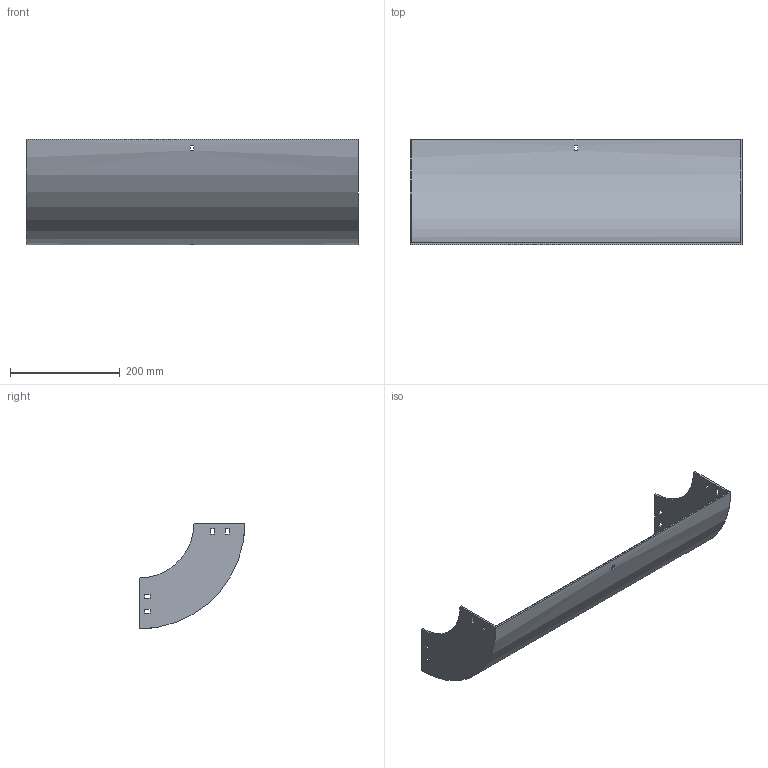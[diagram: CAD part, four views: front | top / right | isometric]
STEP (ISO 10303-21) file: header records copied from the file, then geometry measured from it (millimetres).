
FILE_DESCRIPTION (( 'STEP AP214' ), '1' );
FILE_NAME ('30B1I600.step', '2025-02-21T09:51:35', ( '' ), ( '' ), 'SwSTEP 2.0', 'SolidWorks 2023', '' );
FILE_SCHEMA (( 'AUTOMOTIVE_DESIGN' ));
Length unit declared in the file: millimetre
Products named in the file (1): 30B1I600
Bounding box: 604 x 192.5 x 192.5 mm (x, y, z)
Volume: 772454.1 mm3; surface area: 449165 mm2
Topology: 1 solids, 1 shells, 50 faces, 144 edges, 96 vertices
Faces by surface type: plane 46, cylinder 4
Entity records: 1687 total; most frequent: CARTESIAN_POINT 291, ORIENTED_EDGE 288, DIRECTION 262, EDGE_CURVE 144, LINE 128, VECTOR 128, VERTEX_POINT 96, EDGE_LOOP 70
